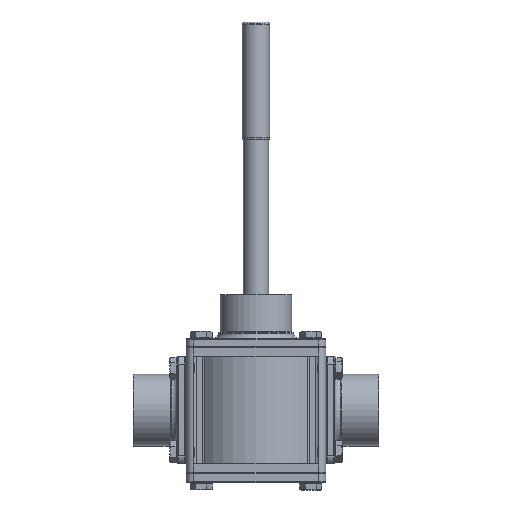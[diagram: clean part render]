
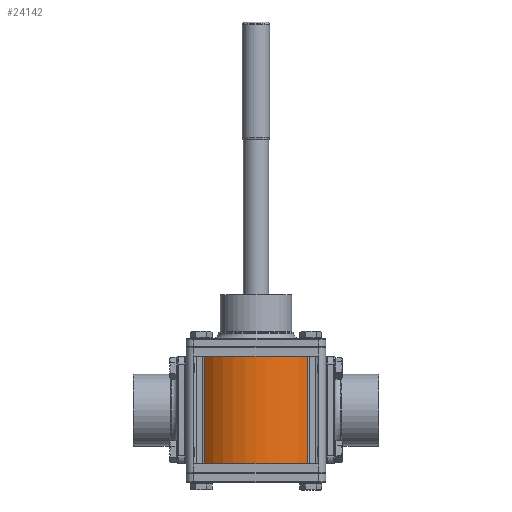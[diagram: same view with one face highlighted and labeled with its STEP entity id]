
A CAD part, front view. The second image highlights one B-rep face of the part: STEP entity #24142.
In plain terms, the highlighted cylindrical face has radius 73 mm (diameter 146 mm), a partial arc.
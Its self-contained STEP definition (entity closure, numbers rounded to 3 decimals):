
#1571 = EDGE_CURVE ( 'NONE', #2139, #14688, #12608, .T. ) ;
#1917 = CIRCLE ( 'NONE', #5860, 73. ) ;
#2139 = VERTEX_POINT ( 'NONE', #23040 ) ;
#2430 = CARTESIAN_POINT ( 'NONE',  ( 0., 0., 57. ) ) ;
#2908 = DIRECTION ( 'NONE',  ( 0., 0., -1. ) ) ;
#2912 = ORIENTED_EDGE ( 'NONE', *, *, #22365, .T. ) ;
#3544 = DIRECTION ( 'NONE',  ( 1., 0., 0. ) ) ;
#4072 = VECTOR ( 'NONE', #11399, 1000. ) ;
#4493 = VECTOR ( 'NONE', #9818, 1000. ) ;
#5652 = AXIS2_PLACEMENT_3D ( 'NONE', #9292, #20922, #29473 ) ;
#5860 = AXIS2_PLACEMENT_3D ( 'NONE', #20429, #26467, #3544 ) ;
#7791 = ORIENTED_EDGE ( 'NONE', *, *, #26846, .F. ) ;
#9292 = CARTESIAN_POINT ( 'NONE',  ( 0., 0., -57. ) ) ;
#9818 = DIRECTION ( 'NONE',  ( 0., 0., 1. ) ) ;
#11399 = DIRECTION ( 'NONE',  ( 0., 0., 1. ) ) ;
#12608 = LINE ( 'NONE', #34429, #4072 ) ;
#14012 = CARTESIAN_POINT ( 'NONE',  ( 54.123, -48.987, 57. ) ) ;
#14500 = AXIS2_PLACEMENT_3D ( 'NONE', #2430, #2908, #22453 ) ;
#14688 = VERTEX_POINT ( 'NONE', #14012 ) ;
#15030 = EDGE_LOOP ( 'NONE', ( #2912, #7791, #26936, #25439 ) ) ;
#19649 = FACE_OUTER_BOUND ( 'NONE', #15030, .T. ) ;
#20188 = VERTEX_POINT ( 'NONE', #31359 ) ;
#20429 = CARTESIAN_POINT ( 'NONE',  ( 0., 0., -57. ) ) ;
#20922 = DIRECTION ( 'NONE',  ( 0., 0., 1. ) ) ;
#22365 = EDGE_CURVE ( 'NONE', #14688, #20188, #36856, .T. ) ;
#22453 = DIRECTION ( 'NONE',  ( 1., 0., 0. ) ) ;
#23040 = CARTESIAN_POINT ( 'NONE',  ( 54.123, -48.987, -57. ) ) ;
#23809 = VERTEX_POINT ( 'NONE', #25477 ) ;
#24142 = ADVANCED_FACE ( 'NONE', ( #19649 ), #36300, .T. ) ;
#25439 = ORIENTED_EDGE ( 'NONE', *, *, #1571, .T. ) ;
#25477 = CARTESIAN_POINT ( 'NONE',  ( -54.123, -48.987, -57. ) ) ;
#26467 = DIRECTION ( 'NONE',  ( 0., 0., -1. ) ) ;
#26846 = EDGE_CURVE ( 'NONE', #23809, #20188, #28683, .T. ) ;
#26855 = CARTESIAN_POINT ( 'NONE',  ( -54.123, -48.987, -57. ) ) ;
#26936 = ORIENTED_EDGE ( 'NONE', *, *, #35448, .F. ) ;
#28683 = LINE ( 'NONE', #26855, #4493 ) ;
#29473 = DIRECTION ( 'NONE',  ( 1., 0., 0. ) ) ;
#31359 = CARTESIAN_POINT ( 'NONE',  ( -54.123, -48.987, 57. ) ) ;
#34429 = CARTESIAN_POINT ( 'NONE',  ( 54.123, -48.987, -57. ) ) ;
#35448 = EDGE_CURVE ( 'NONE', #2139, #23809, #1917, .T. ) ;
#36300 = CYLINDRICAL_SURFACE ( 'NONE', #5652, 73. ) ;
#36856 = CIRCLE ( 'NONE', #14500, 73. ) ;
